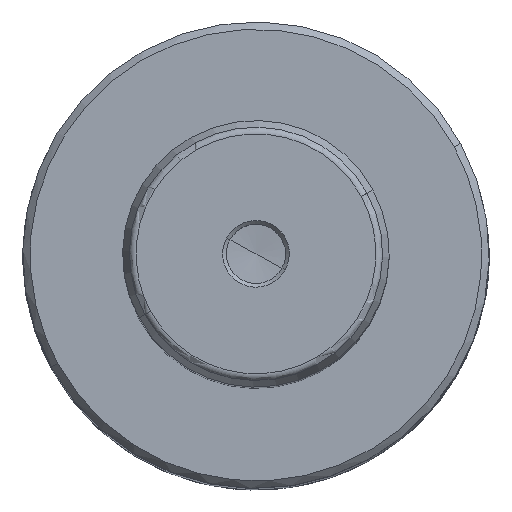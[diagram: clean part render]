
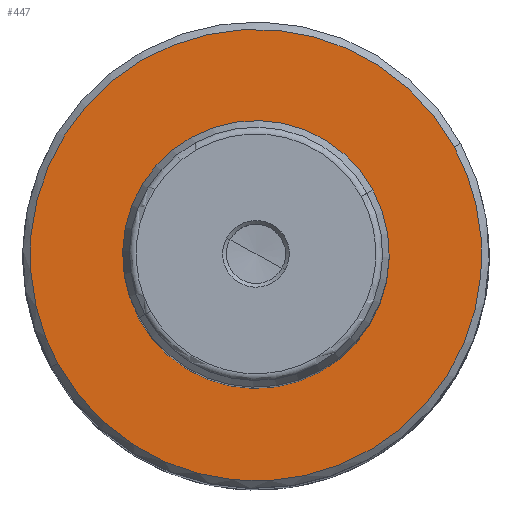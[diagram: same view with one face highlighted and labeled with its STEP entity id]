
A CAD part, top view. The second image highlights one B-rep face of the part: STEP entity #447.
In plain terms, the highlighted planar face has unit normal (0, 0, 1).
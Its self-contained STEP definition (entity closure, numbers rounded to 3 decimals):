
#402 = VERTEX_POINT('',#403);
#403 = CARTESIAN_POINT('',(15.796,8.63,143.));
#411 = VERTEX_POINT('',#412);
#412 = CARTESIAN_POINT('',(-15.796,-8.63,143.));
#418 = EDGE_CURVE('',#411,#402,#419,.T.);
#419 = CIRCLE('',#420,18.);
#420 = AXIS2_PLACEMENT_3D('',#421,#422,#423);
#421 = CARTESIAN_POINT('',(0.,0.,143.));
#422 = DIRECTION('',(0.,0.,1.));
#423 = DIRECTION('',(1.,0.,0.));
#436 = EDGE_CURVE('',#402,#411,#437,.T.);
#437 = CIRCLE('',#438,18.);
#438 = AXIS2_PLACEMENT_3D('',#439,#440,#441);
#439 = CARTESIAN_POINT('',(0.,0.,143.));
#440 = DIRECTION('',(0.,0.,1.));
#441 = DIRECTION('',(1.,0.,0.));
#447 = ADVANCED_FACE('',(#448,#508),#512,.T.);
#448 = FACE_BOUND('',#449,.T.);
#449 = EDGE_LOOP('',(#450,#481));
#450 = ORIENTED_EDGE('',*,*,#451,.T.);
#451 = EDGE_CURVE('',#452,#454,#456,.T.);
#452 = VERTEX_POINT('',#453);
#453 = CARTESIAN_POINT('',(-26.766,-14.622,143.));
#454 = VERTEX_POINT('',#455);
#455 = CARTESIAN_POINT('',(26.766,14.622,143.));
#456 = B_SPLINE_CURVE_WITH_KNOTS('',5,(#457,#458,#459,#460,#461,#462,
    #463,#464,#465,#466,#467,#468,#469,#470,#471,#472,#473,#474,#475,
    #476,#477,#478,#479,#480),.UNSPECIFIED.,.F.,.F.,(6,3,3,3,3,3,3,6),(
    0.,21.044,42.088,63.132,84.176,
    105.22,126.264,135.507),.UNSPECIFIED.);
#457 = CARTESIAN_POINT('',(-26.766,-14.622,143.));
#458 = CARTESIAN_POINT('',(-25.339,-17.234,143.));
#459 = CARTESIAN_POINT('',(-23.594,-19.672,143.));
#460 = CARTESIAN_POINT('',(-21.558,-21.884,143.));
#461 = CARTESIAN_POINT('',(-16.989,-25.766,143.));
#462 = CARTESIAN_POINT('',(-11.62,-28.437,143.));
#463 = CARTESIAN_POINT('',(-8.785,-29.436,143.));
#464 = CARTESIAN_POINT('',(-2.928,-30.724,143.));
#465 = CARTESIAN_POINT('',(3.066,-30.566,143.));
#466 = CARTESIAN_POINT('',(6.039,-30.12,143.));
#467 = CARTESIAN_POINT('',(11.815,-28.512,143.));
#468 = CARTESIAN_POINT('',(17.036,-25.562,143.));
#469 = CARTESIAN_POINT('',(19.453,-23.775,143.));
#470 = CARTESIAN_POINT('',(23.802,-19.647,143.));
#471 = CARTESIAN_POINT('',(27.031,-14.594,143.));
#472 = CARTESIAN_POINT('',(28.328,-11.882,143.));
#473 = CARTESIAN_POINT('',(30.234,-6.197,143.));
#474 = CARTESIAN_POINT('',(30.718,-0.22,143.));
#475 = CARTESIAN_POINT('',(30.593,2.783,143.));
#476 = CARTESIAN_POINT('',(29.887,7.04,143.));
#477 = CARTESIAN_POINT('',(28.459,11.085,143.));
#478 = CARTESIAN_POINT('',(27.958,12.295,143.));
#479 = CARTESIAN_POINT('',(27.393,13.475,143.));
#480 = CARTESIAN_POINT('',(26.766,14.622,143.));
#481 = ORIENTED_EDGE('',*,*,#482,.T.);
#482 = EDGE_CURVE('',#454,#452,#483,.T.);
#483 = B_SPLINE_CURVE_WITH_KNOTS('',5,(#484,#485,#486,#487,#488,#489,
    #490,#491,#492,#493,#494,#495,#496,#497,#498,#499,#500,#501,#502,
    #503,#504,#505,#506,#507),.UNSPECIFIED.,.F.,.F.,(6,3,3,3,3,3,3,6),(
    0.,21.044,42.088,63.132,84.176,
    105.22,126.264,135.507),.UNSPECIFIED.);
#484 = CARTESIAN_POINT('',(26.766,14.622,143.));
#485 = CARTESIAN_POINT('',(25.339,17.234,143.));
#486 = CARTESIAN_POINT('',(23.594,19.672,143.));
#487 = CARTESIAN_POINT('',(21.558,21.884,143.));
#488 = CARTESIAN_POINT('',(16.989,25.766,143.));
#489 = CARTESIAN_POINT('',(11.62,28.437,143.));
#490 = CARTESIAN_POINT('',(8.785,29.436,143.));
#491 = CARTESIAN_POINT('',(2.928,30.724,143.));
#492 = CARTESIAN_POINT('',(-3.066,30.566,143.));
#493 = CARTESIAN_POINT('',(-6.039,30.12,143.));
#494 = CARTESIAN_POINT('',(-11.815,28.512,143.));
#495 = CARTESIAN_POINT('',(-17.036,25.562,143.));
#496 = CARTESIAN_POINT('',(-19.453,23.775,143.));
#497 = CARTESIAN_POINT('',(-23.802,19.647,143.));
#498 = CARTESIAN_POINT('',(-27.031,14.594,143.));
#499 = CARTESIAN_POINT('',(-28.328,11.882,143.));
#500 = CARTESIAN_POINT('',(-30.234,6.197,143.));
#501 = CARTESIAN_POINT('',(-30.718,0.22,143.));
#502 = CARTESIAN_POINT('',(-30.593,-2.783,143.));
#503 = CARTESIAN_POINT('',(-29.887,-7.04,143.));
#504 = CARTESIAN_POINT('',(-28.459,-11.085,143.));
#505 = CARTESIAN_POINT('',(-27.958,-12.295,143.));
#506 = CARTESIAN_POINT('',(-27.393,-13.475,143.));
#507 = CARTESIAN_POINT('',(-26.766,-14.622,143.));
#508 = FACE_BOUND('',#509,.T.);
#509 = EDGE_LOOP('',(#510,#511));
#510 = ORIENTED_EDGE('',*,*,#436,.F.);
#511 = ORIENTED_EDGE('',*,*,#418,.F.);
#512 = PLANE('',#513);
#513 = AXIS2_PLACEMENT_3D('',#514,#515,#516);
#514 = CARTESIAN_POINT('',(30.5,0.,143.));
#515 = DIRECTION('',(0.,0.,1.));
#516 = DIRECTION('',(1.,0.,0.));
